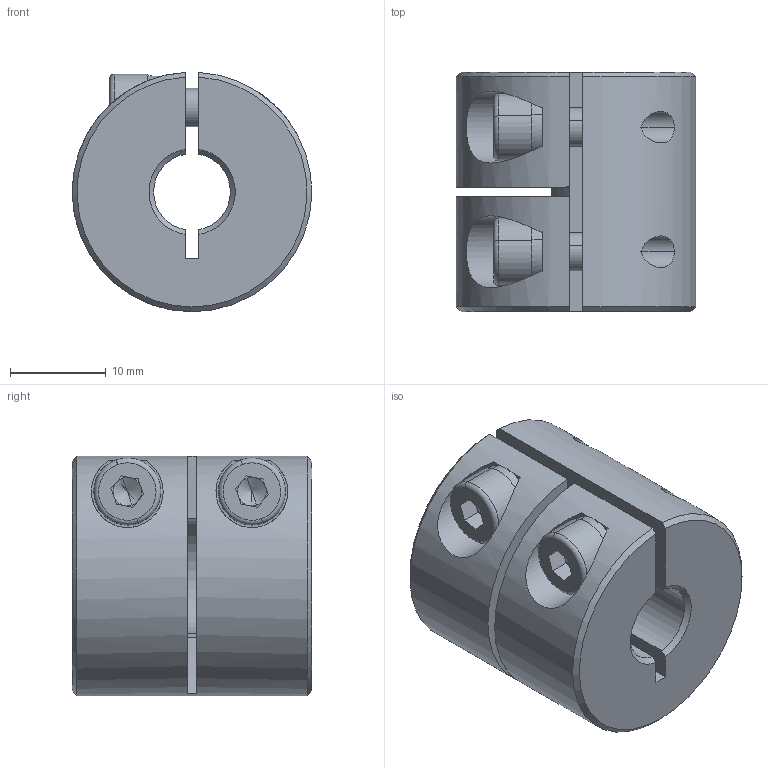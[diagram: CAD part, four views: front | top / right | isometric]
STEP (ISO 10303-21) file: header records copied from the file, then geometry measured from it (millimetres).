
FILE_DESCRIPTION (( 'STEP AP203' ), '1' );
FILE_NAME ('LL-B-D25L25-8-12.STEP', '2021-11-05T06:38:19', ( '' ), ( '' ), 'SwSTEP 2.0', 'SolidWorks 2018', '' );
FILE_SCHEMA (( 'CONFIG_CONTROL_DESIGN' ));
Length unit declared in the file: millimetre
Products named in the file (1): LL-B-D25L25-8-12
Bounding box: 24.99 x 25 x 24.98 mm (x, y, z)
Volume: 9496.7 mm3; surface area: 4940.6 mm2
Topology: 1 solids, 1 shells, 104 faces, 270 edges, 170 vertices
Faces by surface type: plane 52, cylinder 37, cone 11, torus 4
Entity records: 3471 total; most frequent: CARTESIAN_POINT 815, DIRECTION 560, ORIENTED_EDGE 532, EDGE_CURVE 266, AXIS2_PLACEMENT_3D 215, VERTEX_POINT 170, VECTOR 130, LINE 130
